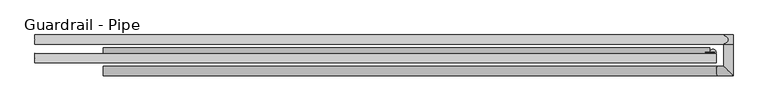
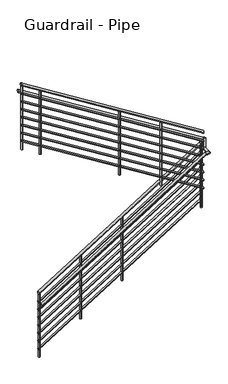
"""IFC4 building model written with IfcOpenShell, lengths in millimetres: railing geometry, Guardrail - Pipe."""

from ifc_helpers import new_model, si_unit, point, frame, frame_2d, origin, place, context, project, spatial, circle_curve, ellipse_curve, trimmed, segment, composite_curve, outline, extrude, faceted_brep, source, transform, mapped, element, save
from ifc_brep_helpers import plane_surface, cylinder_surface, advanced_brep


def guardrail_pipe_dc18c05d(model_context):
    return source(origin(), model_context, "Body", "SolidModel", [
        advanced_brep(
        [(-2631.8939612, 10554.0699505, 9143.3231361), (-2631.8939612, 10515.9699505, 9143.3231361), (-142.6939612, 10554.0699505, 10695.032227), (-142.6939612, 10515.9699505, 10695.032227)],
        [
            (0, 1, ellipse_curve(frame((-2631.8939612, 10535.0199505, 9143.3231361), z_axis=(-1.0, 0.0, 0.0), x_axis=(0.0, 0.0, -1.0)), 22.4482925, 19.05)),
            (1, 0, ellipse_curve(frame((-2631.8939612, 10535.0199505, 9143.3231361), z_axis=(-1.0, 0.0, 0.0), x_axis=(0.0, 0.0, -1.0)), 22.4482925, 19.05)),
            (2, 3, ellipse_curve(frame((-142.6939612, 10535.0199505, 10695.032227), z_axis=(1.0, 0.0, 0.0), x_axis=(0.0, 0.0, -1.0)), 22.4482925, 19.05)),
            (3, 2, ellipse_curve(frame((-142.6939612, 10535.0199505, 10695.032227), z_axis=(1.0, 0.0, 0.0), x_axis=(0.0, 0.0, -1.0)), 22.4482925, 19.05)),
            (0, 2),
            (3, 1),
        ],
        [
            plane_surface(frame((-2631.8939612, 10535.0199505, 9165.7714286), z_axis=(-1.0, 0.0, 0.0), x_axis=(0.0, 1.0, 0.0))),
            plane_surface(frame((-142.6939612, 10535.0199505, 10717.4805195), z_axis=(1.0, 0.0, 0.0), x_axis=(0.0, 1.0, 0.0))),
            cylinder_surface(frame((-2621.8163602, 10535.0199505, 9149.605277), z_axis=(-0.8486168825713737, 0.0, -0.5290079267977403), x_axis=(0.0, -1.0, 0.0)), 19.05),
        ],
        [
            (0, [[1, 2]]),
            (1, [[3, 4]]),
            (2, [[-1, 5, -4, 6]]),
            (2, [[-2, -6, -3, -5]]),
        ],
    ),
        advanced_brep(
        [(-161.7439612, 10535.0199505, 10714.2642857), (-123.6439612, 10535.0199505, 10714.2642857), (-161.7439612, 10536.659643, 10714.2642857), (-123.6439612, 10536.659643, 10714.2642857)],
        [
            (0, 1, circle_curve(frame((-142.6939612, 10535.0199505, 10714.2642857), z_axis=(0.0, -1.0, 0.0), x_axis=(1.0, 0.0, 0.0)), 19.05)),
            (1, 0, circle_curve(frame((-142.6939612, 10535.0199505, 10714.2642857), z_axis=(0.0, -1.0, 0.0), x_axis=(1.0, 0.0, 0.0)), 19.05)),
            (2, 3, circle_curve(frame((-142.6939612, 10536.659643, 10714.2642857), z_axis=(0.0, 1.0, 0.0), x_axis=(1.0, 0.0, 0.0)), 19.05)),
            (3, 2, circle_curve(frame((-142.6939612, 10536.659643, 10714.2642857), z_axis=(0.0, 1.0, 0.0), x_axis=(1.0, 0.0, 0.0)), 19.05)),
            (0, 2),
            (3, 1),
        ],
        [
            plane_surface(frame((-142.6939612, 10535.0199505, 10733.3142857), z_axis=(0.0, -1.0, 0.0), x_axis=(0.0, 0.0, 1.0))),
            plane_surface(frame((-142.6939612, 10536.659643, 10733.3142857), z_axis=(0.0, 1.0, 0.0), x_axis=(0.0, 0.0, 1.0))),
            cylinder_surface(frame((-142.6939612, 10535.0199505, 10714.2642857), z_axis=(0.0, -1.0, 0.0), x_axis=(1.0, 0.0, 0.0)), 19.05),
        ],
        [
            (0, [[1, 2]]),
            (1, [[3, 4]]),
            (2, [[-1, 5, -4, 6]]),
            (2, [[-2, -6, -3, -5]]),
        ],
    ),
        advanced_brep(
        [(-117.2939612, 10492.209643, 10885.0374218), (-117.2939612, 10530.309643, 10885.0374218), (-2911.2939612, 10492.209643, 12626.7517075), (-2911.2939612, 10530.309643, 12626.7517075)],
        [
            (0, 1, ellipse_curve(frame((-117.2939612, 10511.259643, 10885.0374218), z_axis=(1.0, 0.0, 0.0), x_axis=(0.0, 0.0, -1.0)), 22.4482925, 19.05)),
            (1, 0, ellipse_curve(frame((-117.2939612, 10511.259643, 10885.0374218), z_axis=(1.0, 0.0, 0.0), x_axis=(0.0, 0.0, -1.0)), 22.4482925, 19.05)),
            (2, 3, ellipse_curve(frame((-2911.2939612, 10511.259643, 12626.7517075), z_axis=(-1.0, 0.0, 0.0), x_axis=(0.0, 0.0, -1.0)), 22.4482925, 19.05)),
            (3, 2, ellipse_curve(frame((-2911.2939612, 10511.259643, 12626.7517075), z_axis=(-1.0, 0.0, 0.0), x_axis=(0.0, 0.0, -1.0)), 22.4482925, 19.05)),
            (0, 2),
            (3, 1),
        ],
        [
            plane_surface(frame((-117.2939612, 10511.259643, 10907.4857143), z_axis=(1.0, 0.0, 0.0), x_axis=(0.0, -1.0, 0.0))),
            plane_surface(frame((-2911.2939612, 10511.259643, 12649.2), z_axis=(-1.0, 0.0, 0.0), x_axis=(0.0, -1.0, 0.0))),
            cylinder_surface(frame((-127.3715622, 10511.259643, 10891.3195627), z_axis=(0.8486168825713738, 0.0, -0.5290079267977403), x_axis=(0.0, 1.0, 0.0)), 19.05),
        ],
        [
            (0, [[1, 2]]),
            (1, [[3, 4]]),
            (2, [[-1, 5, -4, 6]]),
            (2, [[-2, -6, -3, -5]]),
        ],
    ),
        advanced_brep(
        [(-2631.8939612, 10547.7199505, 8998.4059002), (-2631.8939612, 10522.3199505, 8998.4059002), (-142.6939612, 10547.7199505, 10550.1149911), (-142.6939612, 10522.3199505, 10550.1149911)],
        [
            (0, 1, ellipse_curve(frame((-2631.8939612, 10535.0199505, 8998.4059002), z_axis=(-1.0, 0.0, 0.0), x_axis=(0.0, 0.0, -1.0)), 14.9655283, 12.7)),
            (1, 0, ellipse_curve(frame((-2631.8939612, 10535.0199505, 8998.4059002), z_axis=(-1.0, 0.0, 0.0), x_axis=(0.0, 0.0, -1.0)), 14.9655283, 12.7)),
            (2, 3, ellipse_curve(frame((-142.6939612, 10535.0199505, 10550.1149911), z_axis=(1.0, 0.0, 0.0), x_axis=(0.0, 0.0, -1.0)), 14.9655283, 12.7)),
            (3, 2, ellipse_curve(frame((-142.6939612, 10535.0199505, 10550.1149911), z_axis=(1.0, 0.0, 0.0), x_axis=(0.0, 0.0, -1.0)), 14.9655283, 12.7)),
            (0, 2),
            (3, 1),
        ],
        [
            plane_surface(frame((-2631.8939612, 10535.0199505, 9013.3714286), z_axis=(-1.0, 0.0, 0.0), x_axis=(0.0, 1.0, 0.0))),
            plane_surface(frame((-142.6939612, 10535.0199505, 10565.0805195), z_axis=(1.0, 0.0, 0.0), x_axis=(0.0, 1.0, 0.0))),
            cylinder_surface(frame((-2625.1755605, 10535.0199505, 9002.5939942), z_axis=(-0.8486168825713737, 0.0, -0.5290079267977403), x_axis=(0.0, -1.0, 0.0)), 12.7),
        ],
        [
            (0, [[1, 2]]),
            (1, [[3, 4]]),
            (2, [[-1, 5, -4, 6]]),
            (2, [[-2, -6, -3, -5]]),
        ],
    ),
        advanced_brep(
        [(-155.3939612, 10535.0199505, 10568.2142857), (-129.9939612, 10535.0199505, 10568.2142857), (-155.3939612, 10536.659643, 10568.2142857), (-129.9939612, 10536.659643, 10568.2142857)],
        [
            (0, 1, circle_curve(frame((-142.6939612, 10535.0199505, 10568.2142857), z_axis=(0.0, -1.0, 0.0), x_axis=(1.0, 0.0, 0.0)), 12.7)),
            (1, 0, circle_curve(frame((-142.6939612, 10535.0199505, 10568.2142857), z_axis=(0.0, -1.0, 0.0), x_axis=(1.0, 0.0, 0.0)), 12.7)),
            (2, 3, circle_curve(frame((-142.6939612, 10536.659643, 10568.2142857), z_axis=(0.0, 1.0, 0.0), x_axis=(1.0, 0.0, 0.0)), 12.7)),
            (3, 2, circle_curve(frame((-142.6939612, 10536.659643, 10568.2142857), z_axis=(0.0, 1.0, 0.0), x_axis=(1.0, 0.0, 0.0)), 12.7)),
            (0, 2),
            (3, 1),
        ],
        [
            plane_surface(frame((-142.6939612, 10535.0199505, 10580.9142857), z_axis=(0.0, -1.0, 0.0), x_axis=(0.0, 0.0, 1.0))),
            plane_surface(frame((-142.6939612, 10536.659643, 10580.9142857), z_axis=(0.0, 1.0, 0.0), x_axis=(0.0, 0.0, 1.0))),
            cylinder_surface(frame((-142.6939612, 10535.0199505, 10568.2142857), z_axis=(0.0, -1.0, 0.0), x_axis=(1.0, 0.0, 0.0)), 12.7),
        ],
        [
            (0, [[1, 2]]),
            (1, [[3, 4]]),
            (2, [[-1, 5, -4, 6]]),
            (2, [[-2, -6, -3, -5]]),
        ],
    ),
        advanced_brep(
        [(-117.2939612, 10498.559643, 10740.120186), (-117.2939612, 10523.959643, 10740.120186), (-2911.2939612, 10498.559643, 12481.8344717), (-2911.2939612, 10523.959643, 12481.8344717)],
        [
            (0, 1, ellipse_curve(frame((-117.2939612, 10511.259643, 10740.120186), z_axis=(1.0, 0.0, 0.0), x_axis=(0.0, 0.0, -1.0)), 14.9655283, 12.7)),
            (1, 0, ellipse_curve(frame((-117.2939612, 10511.259643, 10740.120186), z_axis=(1.0, 0.0, 0.0), x_axis=(0.0, 0.0, -1.0)), 14.9655283, 12.7)),
            (2, 3, ellipse_curve(frame((-2911.2939612, 10511.259643, 12481.8344717), z_axis=(-1.0, 0.0, 0.0), x_axis=(0.0, 0.0, -1.0)), 14.9655283, 12.7)),
            (3, 2, ellipse_curve(frame((-2911.2939612, 10511.259643, 12481.8344717), z_axis=(-1.0, 0.0, 0.0), x_axis=(0.0, 0.0, -1.0)), 14.9655283, 12.7)),
            (0, 2),
            (3, 1),
        ],
        [
            plane_surface(frame((-117.2939612, 10511.259643, 10755.0857143), z_axis=(1.0, 0.0, 0.0), x_axis=(0.0, -1.0, 0.0))),
            plane_surface(frame((-2911.2939612, 10511.259643, 12496.8), z_axis=(-1.0, 0.0, 0.0), x_axis=(0.0, -1.0, 0.0))),
            cylinder_surface(frame((-124.0123619, 10511.259643, 10744.3082799), z_axis=(0.8486168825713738, 0.0, -0.5290079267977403), x_axis=(0.0, 1.0, 0.0)), 12.7),
        ],
        [
            (0, [[1, 2]]),
            (1, [[3, 4]]),
            (2, [[-1, 5, -4, 6]]),
            (2, [[-2, -6, -3, -5]]),
        ],
    ),
        advanced_brep(
        [(-2631.8939612, 10477.8699505, 8990.9231361), (-2631.8939612, 10439.7699505, 8990.9231361), (-111.8425336, 10477.8699505, 10561.8642857), (-111.8425336, 10439.7699505, 10561.8642857), (-85.5439612, 10477.8699505, 10561.8642857), (-47.4439612, 10439.7699505, 10561.8642857), (-85.5439612, 10587.459643, 10561.8642857), (-47.4439612, 10587.459643, 10561.8642857)],
        [
            (0, 1, ellipse_curve(frame((-2631.8939612, 10458.8199505, 8990.9231361), z_axis=(-1.0, 0.0, 0.0), x_axis=(0.0, 0.0, -1.0)), 22.4482925, 19.05)),
            (1, 0, ellipse_curve(frame((-2631.8939612, 10458.8199505, 8990.9231361), z_axis=(-1.0, 0.0, 0.0), x_axis=(0.0, 0.0, -1.0)), 22.4482925, 19.05)),
            (0, 2),
            (2, 3, ellipse_curve(frame((-111.8425336, 10458.8199505, 10561.8642857), z_axis=(-0.9614096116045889, 0.0, -0.2751209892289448), x_axis=(0.2751209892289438, 0.0, -0.9614096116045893)), 19.8146552, 19.05)),
            (3, 1),
            (3, 2, ellipse_curve(frame((-111.8425336, 10458.8199505, 10561.8642857), z_axis=(-0.9614096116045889, 0.0, -0.2751209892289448), x_axis=(0.2751209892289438, 0.0, -0.9614096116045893)), 19.8146552, 19.05)),
            (2, 4),
            (4, 5, ellipse_curve(frame((-66.4939612, 10458.8199505, 10561.8642857), z_axis=(-0.7071067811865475, -0.7071067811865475, 0.0), x_axis=(-0.7071067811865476, 0.7071067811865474, 0.0)), 26.9407684, 19.05)),
            (5, 3),
            (5, 4, ellipse_curve(frame((-66.4939612, 10458.8199505, 10561.8642857), z_axis=(-0.7071067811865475, -0.7071067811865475, 0.0), x_axis=(-0.7071067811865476, 0.7071067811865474, 0.0)), 26.9407684, 19.05)),
            (6, 7, circle_curve(frame((-66.4939612, 10587.459643, 10561.8642857), z_axis=(0.0, 1.0, 0.0), x_axis=(1.0, 0.0, 0.0)), 19.05)),
            (7, 6, circle_curve(frame((-66.4939612, 10587.459643, 10561.8642857), z_axis=(0.0, 1.0, 0.0), x_axis=(1.0, 0.0, 0.0)), 19.05)),
            (4, 6),
            (7, 5),
        ],
        [
            plane_surface(frame((-2631.8939612, 10458.8199505, 9013.3714286), z_axis=(-1.0, 0.0, 0.0), x_axis=(0.0, 1.0, 0.0))),
            cylinder_surface(frame((-2621.8163602, 10458.8199505, 8997.205277), z_axis=(-0.8486168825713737, 0.0, -0.5290079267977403), x_axis=(0.0, -1.0, 0.0)), 19.05),
            cylinder_surface(frame((-117.2939612, 10458.8199505, 10561.8642857), z_axis=(-1.0, 0.0, 0.0), x_axis=(0.0, -1.0, 0.0)), 19.05),
            plane_surface(frame((-66.4939612, 10587.459643, 10580.9142857), z_axis=(0.0, 1.0, 0.0), x_axis=(0.0, 0.0, 1.0))),
            cylinder_surface(frame((-66.4939612, 10458.8199505, 10561.8642857), z_axis=(0.0, -1.0, 0.0), x_axis=(1.0, 0.0, 0.0)), 19.05),
        ],
        [
            (0, [[1, 2]]),
            (1, [[-1, 3, 4, 5]]),
            (1, [[-2, -5, 6, -3]]),
            (2, [[-4, 7, 8, 9]]),
            (2, [[-6, -9, 10, -7]]),
            (3, [[11, 12]]),
            (4, [[-8, 13, -12, 14]]),
            (4, [[-10, -14, -11, -13]]),
        ],
    ),
        faceted_brep([(-85.5439612, 10606.509643, 10542.8142857), (-47.4439612, 10606.509643, 10542.8142857), (-47.4439612, 10568.409643, 10542.8142857), (-85.5439612, 10568.409643, 10542.8142857), (-85.5439612, 10606.509643, 10723.4181818), (-85.5439612, 10568.409643, 10723.4181818), (-47.4439612, 10568.409643, 10723.4181818), (-47.4439612, 10606.509643, 10723.4181818)], [[[0, 1, 2, 3]], [[4, 5, 6, 7]], [[1, 0, 4, 7]], [[2, 1, 7, 6]], [[3, 2, 6, 5]], [[0, 3, 5, 4]]]),
        advanced_brep(
        [(-66.4939612, 10568.409643, 10700.9698893), (-66.4939612, 10606.509643, 10700.9698893), (-2911.2939612, 10568.409643, 12474.3517075), (-2911.2939612, 10606.509643, 12474.3517075)],
        [
            (0, 1, ellipse_curve(frame((-66.4939612, 10587.459643, 10700.9698893), z_axis=(1.0, 0.0, 0.0), x_axis=(0.0, 0.0, -1.0)), 22.4482925, 19.05)),
            (1, 0, ellipse_curve(frame((-66.4939612, 10587.459643, 10700.9698893), z_axis=(1.0, 0.0, 0.0), x_axis=(0.0, 0.0, -1.0)), 22.4482925, 19.05)),
            (2, 3, ellipse_curve(frame((-2911.2939612, 10587.459643, 12474.3517075), z_axis=(-1.0, 0.0, 0.0), x_axis=(0.0, 0.0, -1.0)), 22.4482925, 19.05)),
            (3, 2, ellipse_curve(frame((-2911.2939612, 10587.459643, 12474.3517075), z_axis=(-1.0, 0.0, 0.0), x_axis=(0.0, 0.0, -1.0)), 22.4482925, 19.05)),
            (0, 2),
            (3, 1),
        ],
        [
            plane_surface(frame((-66.4939612, 10587.459643, 10723.4181818), z_axis=(1.0, 0.0, 0.0), x_axis=(0.0, -1.0, 0.0))),
            plane_surface(frame((-2911.2939612, 10587.459643, 12496.8), z_axis=(-1.0, 0.0, 0.0), x_axis=(0.0, -1.0, 0.0))),
            cylinder_surface(frame((-76.5715622, 10587.459643, 10707.2520302), z_axis=(0.8486168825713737, 0.0, -0.5290079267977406), x_axis=(0.0, 1.0, 0.0)), 19.05),
        ],
        [
            (0, [[1, 2]]),
            (1, [[3, 4]]),
            (2, [[-1, 5, -4, 6]]),
            (2, [[-2, -6, -3, -5]]),
        ],
    ),
        advanced_brep(
        [(-2631.8939612, 10547.7199505, 8871.4059002), (-2631.8939612, 10522.3199505, 8871.4059002), (-142.6939612, 10547.7199505, 10423.1149911), (-142.6939612, 10522.3199505, 10423.1149911)],
        [
            (0, 1, ellipse_curve(frame((-2631.8939612, 10535.0199505, 8871.4059002), z_axis=(-1.0, 0.0, 0.0), x_axis=(0.0, 0.0, -1.0)), 14.9655283, 12.7)),
            (1, 0, ellipse_curve(frame((-2631.8939612, 10535.0199505, 8871.4059002), z_axis=(-1.0, 0.0, 0.0), x_axis=(0.0, 0.0, -1.0)), 14.9655283, 12.7)),
            (2, 3, ellipse_curve(frame((-142.6939612, 10535.0199505, 10423.1149911), z_axis=(1.0, 0.0, 0.0), x_axis=(0.0, 0.0, -1.0)), 14.9655283, 12.7)),
            (3, 2, ellipse_curve(frame((-142.6939612, 10535.0199505, 10423.1149911), z_axis=(1.0, 0.0, 0.0), x_axis=(0.0, 0.0, -1.0)), 14.9655283, 12.7)),
            (0, 2),
            (3, 1),
        ],
        [
            plane_surface(frame((-2631.8939612, 10535.0199505, 8886.3714286), z_axis=(-1.0, 0.0, 0.0), x_axis=(0.0, 1.0, 0.0))),
            plane_surface(frame((-142.6939612, 10535.0199505, 10438.0805195), z_axis=(1.0, 0.0, 0.0), x_axis=(0.0, 1.0, 0.0))),
            cylinder_surface(frame((-2625.1755605, 10535.0199505, 8875.5939942), z_axis=(-0.8486168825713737, 0.0, -0.5290079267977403), x_axis=(0.0, -1.0, 0.0)), 12.7),
        ],
        [
            (0, [[1, 2]]),
            (1, [[3, 4]]),
            (2, [[-1, 5, -4, 6]]),
            (2, [[-2, -6, -3, -5]]),
        ],
    ),
        advanced_brep(
        [(-155.3939612, 10535.0199505, 10441.2142857), (-129.9939612, 10535.0199505, 10441.2142857), (-155.3939612, 10536.659643, 10441.2142857), (-129.9939612, 10536.659643, 10441.2142857)],
        [
            (0, 1, circle_curve(frame((-142.6939612, 10535.0199505, 10441.2142857), z_axis=(0.0, -1.0, 0.0), x_axis=(1.0, 0.0, 0.0)), 12.7)),
            (1, 0, circle_curve(frame((-142.6939612, 10535.0199505, 10441.2142857), z_axis=(0.0, -1.0, 0.0), x_axis=(1.0, 0.0, 0.0)), 12.7)),
            (2, 3, circle_curve(frame((-142.6939612, 10536.659643, 10441.2142857), z_axis=(0.0, 1.0, 0.0), x_axis=(1.0, 0.0, 0.0)), 12.7)),
            (3, 2, circle_curve(frame((-142.6939612, 10536.659643, 10441.2142857), z_axis=(0.0, 1.0, 0.0), x_axis=(1.0, 0.0, 0.0)), 12.7)),
            (0, 2),
            (3, 1),
        ],
        [
            plane_surface(frame((-142.6939612, 10535.0199505, 10453.9142857), z_axis=(0.0, -1.0, 0.0), x_axis=(0.0, 0.0, 1.0))),
            plane_surface(frame((-142.6939612, 10536.659643, 10453.9142857), z_axis=(0.0, 1.0, 0.0), x_axis=(0.0, 0.0, 1.0))),
            cylinder_surface(frame((-142.6939612, 10535.0199505, 10441.2142857), z_axis=(0.0, -1.0, 0.0), x_axis=(1.0, 0.0, 0.0)), 12.7),
        ],
        [
            (0, [[1, 2]]),
            (1, [[3, 4]]),
            (2, [[-1, 5, -4, 6]]),
            (2, [[-2, -6, -3, -5]]),
        ],
    ),
        advanced_brep(
        [(-117.2939612, 10498.559643, 10613.120186), (-117.2939612, 10523.959643, 10613.120186), (-2911.2939612, 10498.559643, 12354.8344717), (-2911.2939612, 10523.959643, 12354.8344717)],
        [
            (0, 1, ellipse_curve(frame((-117.2939612, 10511.259643, 10613.120186), z_axis=(1.0, 0.0, 0.0), x_axis=(0.0, 0.0, -1.0)), 14.9655283, 12.7)),
            (1, 0, ellipse_curve(frame((-117.2939612, 10511.259643, 10613.120186), z_axis=(1.0, 0.0, 0.0), x_axis=(0.0, 0.0, -1.0)), 14.9655283, 12.7)),
            (2, 3, ellipse_curve(frame((-2911.2939612, 10511.259643, 12354.8344717), z_axis=(-1.0, 0.0, 0.0), x_axis=(0.0, 0.0, -1.0)), 14.9655283, 12.7)),
            (3, 2, ellipse_curve(frame((-2911.2939612, 10511.259643, 12354.8344717), z_axis=(-1.0, 0.0, 0.0), x_axis=(0.0, 0.0, -1.0)), 14.9655283, 12.7)),
            (0, 2),
            (3, 1),
        ],
        [
            plane_surface(frame((-117.2939612, 10511.259643, 10628.0857143), z_axis=(1.0, 0.0, 0.0), x_axis=(0.0, -1.0, 0.0))),
            plane_surface(frame((-2911.2939612, 10511.259643, 12369.8), z_axis=(-1.0, 0.0, 0.0), x_axis=(0.0, -1.0, 0.0))),
            cylinder_surface(frame((-124.0123619, 10511.259643, 10617.3082799), z_axis=(0.8486168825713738, 0.0, -0.5290079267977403), x_axis=(0.0, 1.0, 0.0)), 12.7),
        ],
        [
            (0, [[1, 2]]),
            (1, [[3, 4]]),
            (2, [[-1, 5, -4, 6]]),
            (2, [[-2, -6, -3, -5]]),
        ],
    ),
        advanced_brep(
        [(-2631.8939612, 10547.7199505, 8744.4059002), (-2631.8939612, 10522.3199505, 8744.4059002), (-142.6939612, 10547.7199505, 10296.1149911), (-142.6939612, 10522.3199505, 10296.1149911)],
        [
            (0, 1, ellipse_curve(frame((-2631.8939612, 10535.0199505, 8744.4059002), z_axis=(-1.0, 0.0, 0.0), x_axis=(0.0, 0.0, -1.0)), 14.9655283, 12.7)),
            (1, 0, ellipse_curve(frame((-2631.8939612, 10535.0199505, 8744.4059002), z_axis=(-1.0, 0.0, 0.0), x_axis=(0.0, 0.0, -1.0)), 14.9655283, 12.7)),
            (2, 3, ellipse_curve(frame((-142.6939612, 10535.0199505, 10296.1149911), z_axis=(1.0, 0.0, 0.0), x_axis=(0.0, 0.0, -1.0)), 14.9655283, 12.7)),
            (3, 2, ellipse_curve(frame((-142.6939612, 10535.0199505, 10296.1149911), z_axis=(1.0, 0.0, 0.0), x_axis=(0.0, 0.0, -1.0)), 14.9655283, 12.7)),
            (0, 2),
            (3, 1),
        ],
        [
            plane_surface(frame((-2631.8939612, 10535.0199505, 8759.3714286), z_axis=(-1.0, 0.0, 0.0), x_axis=(0.0, 1.0, 0.0))),
            plane_surface(frame((-142.6939612, 10535.0199505, 10311.0805195), z_axis=(1.0, 0.0, 0.0), x_axis=(0.0, 1.0, 0.0))),
            cylinder_surface(frame((-2625.1755605, 10535.0199505, 8748.5939942), z_axis=(-0.8486168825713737, 0.0, -0.5290079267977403), x_axis=(0.0, -1.0, 0.0)), 12.7),
        ],
        [
            (0, [[1, 2]]),
            (1, [[3, 4]]),
            (2, [[-1, 5, -4, 6]]),
            (2, [[-2, -6, -3, -5]]),
        ],
    ),
        advanced_brep(
        [(-155.3939612, 10535.0199505, 10314.2142857), (-129.9939612, 10535.0199505, 10314.2142857), (-155.3939612, 10536.659643, 10314.2142857), (-129.9939612, 10536.659643, 10314.2142857)],
        [
            (0, 1, circle_curve(frame((-142.6939612, 10535.0199505, 10314.2142857), z_axis=(0.0, -1.0, 0.0), x_axis=(1.0, 0.0, 0.0)), 12.7)),
            (1, 0, circle_curve(frame((-142.6939612, 10535.0199505, 10314.2142857), z_axis=(0.0, -1.0, 0.0), x_axis=(1.0, 0.0, 0.0)), 12.7)),
            (2, 3, circle_curve(frame((-142.6939612, 10536.659643, 10314.2142857), z_axis=(0.0, 1.0, 0.0), x_axis=(1.0, 0.0, 0.0)), 12.7)),
            (3, 2, circle_curve(frame((-142.6939612, 10536.659643, 10314.2142857), z_axis=(0.0, 1.0, 0.0), x_axis=(1.0, 0.0, 0.0)), 12.7)),
            (0, 2),
            (3, 1),
        ],
        [
            plane_surface(frame((-142.6939612, 10535.0199505, 10326.9142857), z_axis=(0.0, -1.0, 0.0), x_axis=(0.0, 0.0, 1.0))),
            plane_surface(frame((-142.6939612, 10536.659643, 10326.9142857), z_axis=(0.0, 1.0, 0.0), x_axis=(0.0, 0.0, 1.0))),
            cylinder_surface(frame((-142.6939612, 10535.0199505, 10314.2142857), z_axis=(0.0, -1.0, 0.0), x_axis=(1.0, 0.0, 0.0)), 12.7),
        ],
        [
            (0, [[1, 2]]),
            (1, [[3, 4]]),
            (2, [[-1, 5, -4, 6]]),
            (2, [[-2, -6, -3, -5]]),
        ],
    ),
        advanced_brep(
        [(-117.2939612, 10498.559643, 10486.120186), (-117.2939612, 10523.959643, 10486.120186), (-2911.2939612, 10498.559643, 12227.8344717), (-2911.2939612, 10523.959643, 12227.8344717)],
        [
            (0, 1, ellipse_curve(frame((-117.2939612, 10511.259643, 10486.120186), z_axis=(1.0, 0.0, 0.0), x_axis=(0.0, 0.0, -1.0)), 14.9655283, 12.7)),
            (1, 0, ellipse_curve(frame((-117.2939612, 10511.259643, 10486.120186), z_axis=(1.0, 0.0, 0.0), x_axis=(0.0, 0.0, -1.0)), 14.9655283, 12.7)),
            (2, 3, ellipse_curve(frame((-2911.2939612, 10511.259643, 12227.8344717), z_axis=(-1.0, 0.0, 0.0), x_axis=(0.0, 0.0, -1.0)), 14.9655283, 12.7)),
            (3, 2, ellipse_curve(frame((-2911.2939612, 10511.259643, 12227.8344717), z_axis=(-1.0, 0.0, 0.0), x_axis=(0.0, 0.0, -1.0)), 14.9655283, 12.7)),
            (0, 2),
            (3, 1),
        ],
        [
            plane_surface(frame((-117.2939612, 10511.259643, 10501.0857143), z_axis=(1.0, 0.0, 0.0), x_axis=(0.0, -1.0, 0.0))),
            plane_surface(frame((-2911.2939612, 10511.259643, 12242.8), z_axis=(-1.0, 0.0, 0.0), x_axis=(0.0, -1.0, 0.0))),
            cylinder_surface(frame((-124.0123619, 10511.259643, 10490.3082799), z_axis=(0.8486168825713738, 0.0, -0.5290079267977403), x_axis=(0.0, 1.0, 0.0)), 12.7),
        ],
        [
            (0, [[1, 2]]),
            (1, [[3, 4]]),
            (2, [[-1, 5, -4, 6]]),
            (2, [[-2, -6, -3, -5]]),
        ],
    ),
        advanced_brep(
        [(-2631.8939612, 10547.7199505, 8617.4059002), (-2631.8939612, 10522.3199505, 8617.4059002), (-142.6939612, 10547.7199505, 10169.1149911), (-142.6939612, 10522.3199505, 10169.1149911)],
        [
            (0, 1, ellipse_curve(frame((-2631.8939612, 10535.0199505, 8617.4059002), z_axis=(-1.0, 0.0, 0.0), x_axis=(0.0, 0.0, -1.0)), 14.9655283, 12.7)),
            (1, 0, ellipse_curve(frame((-2631.8939612, 10535.0199505, 8617.4059002), z_axis=(-1.0, 0.0, 0.0), x_axis=(0.0, 0.0, -1.0)), 14.9655283, 12.7)),
            (2, 3, ellipse_curve(frame((-142.6939612, 10535.0199505, 10169.1149911), z_axis=(1.0, 0.0, 0.0), x_axis=(0.0, 0.0, -1.0)), 14.9655283, 12.7)),
            (3, 2, ellipse_curve(frame((-142.6939612, 10535.0199505, 10169.1149911), z_axis=(1.0, 0.0, 0.0), x_axis=(0.0, 0.0, -1.0)), 14.9655283, 12.7)),
            (0, 2),
            (3, 1),
        ],
        [
            plane_surface(frame((-2631.8939612, 10535.0199505, 8632.3714286), z_axis=(-1.0, 0.0, 0.0), x_axis=(0.0, 1.0, 0.0))),
            plane_surface(frame((-142.6939612, 10535.0199505, 10184.0805195), z_axis=(1.0, 0.0, 0.0), x_axis=(0.0, 1.0, 0.0))),
            cylinder_surface(frame((-2625.1755605, 10535.0199505, 8621.5939942), z_axis=(-0.8486168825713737, 0.0, -0.5290079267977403), x_axis=(0.0, -1.0, 0.0)), 12.7),
        ],
        [
            (0, [[1, 2]]),
            (1, [[3, 4]]),
            (2, [[-1, 5, -4, 6]]),
            (2, [[-2, -6, -3, -5]]),
        ],
    ),
        advanced_brep(
        [(-155.3939612, 10535.0199505, 10187.2142857), (-129.9939612, 10535.0199505, 10187.2142857), (-155.3939612, 10536.659643, 10187.2142857), (-129.9939612, 10536.659643, 10187.2142857)],
        [
            (0, 1, circle_curve(frame((-142.6939612, 10535.0199505, 10187.2142857), z_axis=(0.0, -1.0, 0.0), x_axis=(1.0, 0.0, 0.0)), 12.7)),
            (1, 0, circle_curve(frame((-142.6939612, 10535.0199505, 10187.2142857), z_axis=(0.0, -1.0, 0.0), x_axis=(1.0, 0.0, 0.0)), 12.7)),
            (2, 3, circle_curve(frame((-142.6939612, 10536.659643, 10187.2142857), z_axis=(0.0, 1.0, 0.0), x_axis=(1.0, 0.0, 0.0)), 12.7)),
            (3, 2, circle_curve(frame((-142.6939612, 10536.659643, 10187.2142857), z_axis=(0.0, 1.0, 0.0), x_axis=(1.0, 0.0, 0.0)), 12.7)),
            (0, 2),
            (3, 1),
        ],
        [
            plane_surface(frame((-142.6939612, 10535.0199505, 10199.9142857), z_axis=(0.0, -1.0, 0.0), x_axis=(0.0, 0.0, 1.0))),
            plane_surface(frame((-142.6939612, 10536.659643, 10199.9142857), z_axis=(0.0, 1.0, 0.0), x_axis=(0.0, 0.0, 1.0))),
            cylinder_surface(frame((-142.6939612, 10535.0199505, 10187.2142857), z_axis=(0.0, -1.0, 0.0), x_axis=(1.0, 0.0, 0.0)), 12.7),
        ],
        [
            (0, [[1, 2]]),
            (1, [[3, 4]]),
            (2, [[-1, 5, -4, 6]]),
            (2, [[-2, -6, -3, -5]]),
        ],
    ),
        advanced_brep(
        [(-117.2939612, 10498.559643, 10359.120186), (-117.2939612, 10523.959643, 10359.120186), (-2911.2939612, 10498.559643, 12100.8344717), (-2911.2939612, 10523.959643, 12100.8344717)],
        [
            (0, 1, ellipse_curve(frame((-117.2939612, 10511.259643, 10359.120186), z_axis=(1.0, 0.0, 0.0), x_axis=(0.0, 0.0, -1.0)), 14.9655283, 12.7)),
            (1, 0, ellipse_curve(frame((-117.2939612, 10511.259643, 10359.120186), z_axis=(1.0, 0.0, 0.0), x_axis=(0.0, 0.0, -1.0)), 14.9655283, 12.7)),
            (2, 3, ellipse_curve(frame((-2911.2939612, 10511.259643, 12100.8344717), z_axis=(-1.0, 0.0, 0.0), x_axis=(0.0, 0.0, -1.0)), 14.9655283, 12.7)),
            (3, 2, ellipse_curve(frame((-2911.2939612, 10511.259643, 12100.8344717), z_axis=(-1.0, 0.0, 0.0), x_axis=(0.0, 0.0, -1.0)), 14.9655283, 12.7)),
            (0, 2),
            (3, 1),
        ],
        [
            plane_surface(frame((-117.2939612, 10511.259643, 10374.0857143), z_axis=(1.0, 0.0, 0.0), x_axis=(0.0, -1.0, 0.0))),
            plane_surface(frame((-2911.2939612, 10511.259643, 12115.8), z_axis=(-1.0, 0.0, 0.0), x_axis=(0.0, -1.0, 0.0))),
            cylinder_surface(frame((-124.0123619, 10511.259643, 10363.3082799), z_axis=(0.8486168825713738, 0.0, -0.5290079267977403), x_axis=(0.0, 1.0, 0.0)), 12.7),
        ],
        [
            (0, [[1, 2]]),
            (1, [[3, 4]]),
            (2, [[-1, 5, -4, 6]]),
            (2, [[-2, -6, -3, -5]]),
        ],
    ),
        advanced_brep(
        [(-2631.8939612, 10547.7199505, 8490.4059002), (-2631.8939612, 10522.3199505, 8490.4059002), (-142.6939612, 10547.7199505, 10042.1149911), (-142.6939612, 10522.3199505, 10042.1149911)],
        [
            (0, 1, ellipse_curve(frame((-2631.8939612, 10535.0199505, 8490.4059002), z_axis=(-1.0, 0.0, 0.0), x_axis=(0.0, 0.0, -1.0)), 14.9655283, 12.7)),
            (1, 0, ellipse_curve(frame((-2631.8939612, 10535.0199505, 8490.4059002), z_axis=(-1.0, 0.0, 0.0), x_axis=(0.0, 0.0, -1.0)), 14.9655283, 12.7)),
            (2, 3, ellipse_curve(frame((-142.6939612, 10535.0199505, 10042.1149911), z_axis=(1.0, 0.0, 0.0), x_axis=(0.0, 0.0, -1.0)), 14.9655283, 12.7)),
            (3, 2, ellipse_curve(frame((-142.6939612, 10535.0199505, 10042.1149911), z_axis=(1.0, 0.0, 0.0), x_axis=(0.0, 0.0, -1.0)), 14.9655283, 12.7)),
            (0, 2),
            (3, 1),
        ],
        [
            plane_surface(frame((-2631.8939612, 10535.0199505, 8505.3714286), z_axis=(-1.0, 0.0, 0.0), x_axis=(0.0, 1.0, 0.0))),
            plane_surface(frame((-142.6939612, 10535.0199505, 10057.0805195), z_axis=(1.0, 0.0, 0.0), x_axis=(0.0, 1.0, 0.0))),
            cylinder_surface(frame((-2625.1755605, 10535.0199505, 8494.5939942), z_axis=(-0.8486168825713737, 0.0, -0.5290079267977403), x_axis=(0.0, -1.0, 0.0)), 12.7),
        ],
        [
            (0, [[1, 2]]),
            (1, [[3, 4]]),
            (2, [[-1, 5, -4, 6]]),
            (2, [[-2, -6, -3, -5]]),
        ],
    ),
        advanced_brep(
        [(-155.3939612, 10535.0199505, 10060.2142857), (-129.9939612, 10535.0199505, 10060.2142857), (-155.3939612, 10536.659643, 10060.2142857), (-129.9939612, 10536.659643, 10060.2142857)],
        [
            (0, 1, circle_curve(frame((-142.6939612, 10535.0199505, 10060.2142857), z_axis=(0.0, -1.0, 0.0), x_axis=(1.0, 0.0, 0.0)), 12.7)),
            (1, 0, circle_curve(frame((-142.6939612, 10535.0199505, 10060.2142857), z_axis=(0.0, -1.0, 0.0), x_axis=(1.0, 0.0, 0.0)), 12.7)),
            (2, 3, circle_curve(frame((-142.6939612, 10536.659643, 10060.2142857), z_axis=(0.0, 1.0, 0.0), x_axis=(1.0, 0.0, 0.0)), 12.7)),
            (3, 2, circle_curve(frame((-142.6939612, 10536.659643, 10060.2142857), z_axis=(0.0, 1.0, 0.0), x_axis=(1.0, 0.0, 0.0)), 12.7)),
            (0, 2),
            (3, 1),
        ],
        [
            plane_surface(frame((-142.6939612, 10535.0199505, 10072.9142857), z_axis=(0.0, -1.0, 0.0), x_axis=(0.0, 0.0, 1.0))),
            plane_surface(frame((-142.6939612, 10536.659643, 10072.9142857), z_axis=(0.0, 1.0, 0.0), x_axis=(0.0, 0.0, 1.0))),
            cylinder_surface(frame((-142.6939612, 10535.0199505, 10060.2142857), z_axis=(0.0, -1.0, 0.0), x_axis=(1.0, 0.0, 0.0)), 12.7),
        ],
        [
            (0, [[1, 2]]),
            (1, [[3, 4]]),
            (2, [[-1, 5, -4, 6]]),
            (2, [[-2, -6, -3, -5]]),
        ],
    ),
        advanced_brep(
        [(-117.2939612, 10498.559643, 10232.120186), (-117.2939612, 10523.959643, 10232.120186), (-2911.2939612, 10498.559643, 11973.8344717), (-2911.2939612, 10523.959643, 11973.8344717)],
        [
            (0, 1, ellipse_curve(frame((-117.2939612, 10511.259643, 10232.120186), z_axis=(1.0, 0.0, 0.0), x_axis=(0.0, 0.0, -1.0)), 14.9655283, 12.7)),
            (1, 0, ellipse_curve(frame((-117.2939612, 10511.259643, 10232.120186), z_axis=(1.0, 0.0, 0.0), x_axis=(0.0, 0.0, -1.0)), 14.9655283, 12.7)),
            (2, 3, ellipse_curve(frame((-2911.2939612, 10511.259643, 11973.8344717), z_axis=(-1.0, 0.0, 0.0), x_axis=(0.0, 0.0, -1.0)), 14.9655283, 12.7)),
            (3, 2, ellipse_curve(frame((-2911.2939612, 10511.259643, 11973.8344717), z_axis=(-1.0, 0.0, 0.0), x_axis=(0.0, 0.0, -1.0)), 14.9655283, 12.7)),
            (0, 2),
            (3, 1),
        ],
        [
            plane_surface(frame((-117.2939612, 10511.259643, 10247.0857143), z_axis=(1.0, 0.0, 0.0), x_axis=(0.0, -1.0, 0.0))),
            plane_surface(frame((-2911.2939612, 10511.259643, 11988.8), z_axis=(-1.0, 0.0, 0.0), x_axis=(0.0, -1.0, 0.0))),
            cylinder_surface(frame((-124.0123619, 10511.259643, 10236.3082799), z_axis=(0.8486168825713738, 0.0, -0.5290079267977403), x_axis=(0.0, 1.0, 0.0)), 12.7),
        ],
        [
            (0, [[1, 2]]),
            (1, [[3, 4]]),
            (2, [[-1, 5, -4, 6]]),
            (2, [[-2, -6, -3, -5]]),
        ],
    ),
        advanced_brep(
        [(-2631.8939612, 10547.7199505, 8363.4059002), (-2631.8939612, 10522.3199505, 8363.4059002), (-142.6939612, 10547.7199505, 9915.1149911), (-142.6939612, 10522.3199505, 9915.1149911)],
        [
            (0, 1, ellipse_curve(frame((-2631.8939612, 10535.0199505, 8363.4059002), z_axis=(-1.0, 0.0, 0.0), x_axis=(0.0, 0.0, -1.0)), 14.9655283, 12.7)),
            (1, 0, ellipse_curve(frame((-2631.8939612, 10535.0199505, 8363.4059002), z_axis=(-1.0, 0.0, 0.0), x_axis=(0.0, 0.0, -1.0)), 14.9655283, 12.7)),
            (2, 3, ellipse_curve(frame((-142.6939612, 10535.0199505, 9915.1149911), z_axis=(1.0, 0.0, 0.0), x_axis=(0.0, 0.0, -1.0)), 14.9655283, 12.7)),
            (3, 2, ellipse_curve(frame((-142.6939612, 10535.0199505, 9915.1149911), z_axis=(1.0, 0.0, 0.0), x_axis=(0.0, 0.0, -1.0)), 14.9655283, 12.7)),
            (0, 2),
            (3, 1),
        ],
        [
            plane_surface(frame((-2631.8939612, 10535.0199505, 8378.3714286), z_axis=(-1.0, 0.0, 0.0), x_axis=(0.0, 1.0, 0.0))),
            plane_surface(frame((-142.6939612, 10535.0199505, 9930.0805195), z_axis=(1.0, 0.0, 0.0), x_axis=(0.0, 1.0, 0.0))),
            cylinder_surface(frame((-2625.1755605, 10535.0199505, 8367.5939942), z_axis=(-0.8486168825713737, 0.0, -0.5290079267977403), x_axis=(0.0, -1.0, 0.0)), 12.7),
        ],
        [
            (0, [[1, 2]]),
            (1, [[3, 4]]),
            (2, [[-1, 5, -4, 6]]),
            (2, [[-2, -6, -3, -5]]),
        ],
    ),
        advanced_brep(
        [(-155.3939612, 10535.0199505, 9933.2142857), (-129.9939612, 10535.0199505, 9933.2142857), (-155.3939612, 10536.659643, 9933.2142857), (-129.9939612, 10536.659643, 9933.2142857)],
        [
            (0, 1, circle_curve(frame((-142.6939612, 10535.0199505, 9933.2142857), z_axis=(0.0, -1.0, 0.0), x_axis=(1.0, 0.0, 0.0)), 12.7)),
            (1, 0, circle_curve(frame((-142.6939612, 10535.0199505, 9933.2142857), z_axis=(0.0, -1.0, 0.0), x_axis=(1.0, 0.0, 0.0)), 12.7)),
            (2, 3, circle_curve(frame((-142.6939612, 10536.659643, 9933.2142857), z_axis=(0.0, 1.0, 0.0), x_axis=(1.0, 0.0, 0.0)), 12.7)),
            (3, 2, circle_curve(frame((-142.6939612, 10536.659643, 9933.2142857), z_axis=(0.0, 1.0, 0.0), x_axis=(1.0, 0.0, 0.0)), 12.7)),
            (0, 2),
            (3, 1),
        ],
        [
            plane_surface(frame((-142.6939612, 10535.0199505, 9945.9142857), z_axis=(0.0, -1.0, 0.0), x_axis=(0.0, 0.0, 1.0))),
            plane_surface(frame((-142.6939612, 10536.659643, 9945.9142857), z_axis=(0.0, 1.0, 0.0), x_axis=(0.0, 0.0, 1.0))),
            cylinder_surface(frame((-142.6939612, 10535.0199505, 9933.2142857), z_axis=(0.0, -1.0, 0.0), x_axis=(1.0, 0.0, 0.0)), 12.7),
        ],
        [
            (0, [[1, 2]]),
            (1, [[3, 4]]),
            (2, [[-1, 5, -4, 6]]),
            (2, [[-2, -6, -3, -5]]),
        ],
    ),
        advanced_brep(
        [(-117.2939612, 10498.559643, 10105.120186), (-117.2939612, 10523.959643, 10105.120186), (-2911.2939612, 10498.559643, 11846.8344717), (-2911.2939612, 10523.959643, 11846.8344717)],
        [
            (0, 1, ellipse_curve(frame((-117.2939612, 10511.259643, 10105.120186), z_axis=(1.0, 0.0, 0.0), x_axis=(0.0, 0.0, -1.0)), 14.9655283, 12.7)),
            (1, 0, ellipse_curve(frame((-117.2939612, 10511.259643, 10105.120186), z_axis=(1.0, 0.0, 0.0), x_axis=(0.0, 0.0, -1.0)), 14.9655283, 12.7)),
            (2, 3, ellipse_curve(frame((-2911.2939612, 10511.259643, 11846.8344717), z_axis=(-1.0, 0.0, 0.0), x_axis=(0.0, 0.0, -1.0)), 14.9655283, 12.7)),
            (3, 2, ellipse_curve(frame((-2911.2939612, 10511.259643, 11846.8344717), z_axis=(-1.0, 0.0, 0.0), x_axis=(0.0, 0.0, -1.0)), 14.9655283, 12.7)),
            (0, 2),
            (3, 1),
        ],
        [
            plane_surface(frame((-117.2939612, 10511.259643, 10120.0857143), z_axis=(1.0, 0.0, 0.0), x_axis=(0.0, -1.0, 0.0))),
            plane_surface(frame((-2911.2939612, 10511.259643, 11861.8), z_axis=(-1.0, 0.0, 0.0), x_axis=(0.0, -1.0, 0.0))),
            cylinder_surface(frame((-124.0123619, 10511.259643, 10109.3082799), z_axis=(0.8486168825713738, 0.0, -0.5290079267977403), x_axis=(0.0, 1.0, 0.0)), 12.7),
        ],
        [
            (0, [[1, 2]]),
            (1, [[3, 4]]),
            (2, [[-1, 5, -4, 6]]),
            (2, [[-2, -6, -3, -5]]),
        ],
    ),
        advanced_brep(
        [(-2631.8939612, 10547.7199505, 8236.4059002), (-2631.8939612, 10522.3199505, 8236.4059002), (-142.6939612, 10547.7199505, 9788.1149911), (-142.6939612, 10522.3199505, 9788.1149911)],
        [
            (0, 1, ellipse_curve(frame((-2631.8939612, 10535.0199505, 8236.4059002), z_axis=(-1.0, 0.0, 0.0), x_axis=(0.0, 0.0, -1.0)), 14.9655283, 12.7)),
            (1, 0, ellipse_curve(frame((-2631.8939612, 10535.0199505, 8236.4059002), z_axis=(-1.0, 0.0, 0.0), x_axis=(0.0, 0.0, -1.0)), 14.9655283, 12.7)),
            (2, 3, ellipse_curve(frame((-142.6939612, 10535.0199505, 9788.1149911), z_axis=(1.0, 0.0, 0.0), x_axis=(0.0, 0.0, -1.0)), 14.9655283, 12.7)),
            (3, 2, ellipse_curve(frame((-142.6939612, 10535.0199505, 9788.1149911), z_axis=(1.0, 0.0, 0.0), x_axis=(0.0, 0.0, -1.0)), 14.9655283, 12.7)),
            (0, 2),
            (3, 1),
        ],
        [
            plane_surface(frame((-2631.8939612, 10535.0199505, 8251.3714286), z_axis=(-1.0, 0.0, 0.0), x_axis=(0.0, 1.0, 0.0))),
            plane_surface(frame((-142.6939612, 10535.0199505, 9803.0805195), z_axis=(1.0, 0.0, 0.0), x_axis=(0.0, 1.0, 0.0))),
            cylinder_surface(frame((-2625.1755605, 10535.0199505, 8240.5939942), z_axis=(-0.8486168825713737, 0.0, -0.5290079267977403), x_axis=(0.0, -1.0, 0.0)), 12.7),
        ],
        [
            (0, [[1, 2]]),
            (1, [[3, 4]]),
            (2, [[-1, 5, -4, 6]]),
            (2, [[-2, -6, -3, -5]]),
        ],
    ),
        advanced_brep(
        [(-155.3939612, 10535.0199505, 9806.2142857), (-129.9939612, 10535.0199505, 9806.2142857), (-155.3939612, 10536.659643, 9806.2142857), (-129.9939612, 10536.659643, 9806.2142857)],
        [
            (0, 1, circle_curve(frame((-142.6939612, 10535.0199505, 9806.2142857), z_axis=(0.0, -1.0, 0.0), x_axis=(1.0, 0.0, 0.0)), 12.7)),
            (1, 0, circle_curve(frame((-142.6939612, 10535.0199505, 9806.2142857), z_axis=(0.0, -1.0, 0.0), x_axis=(1.0, 0.0, 0.0)), 12.7)),
            (2, 3, circle_curve(frame((-142.6939612, 10536.659643, 9806.2142857), z_axis=(0.0, 1.0, 0.0), x_axis=(1.0, 0.0, 0.0)), 12.7)),
            (3, 2, circle_curve(frame((-142.6939612, 10536.659643, 9806.2142857), z_axis=(0.0, 1.0, 0.0), x_axis=(1.0, 0.0, 0.0)), 12.7)),
            (0, 2),
            (3, 1),
        ],
        [
            plane_surface(frame((-142.6939612, 10535.0199505, 9818.9142857), z_axis=(0.0, -1.0, 0.0), x_axis=(0.0, 0.0, 1.0))),
            plane_surface(frame((-142.6939612, 10536.659643, 9818.9142857), z_axis=(0.0, 1.0, 0.0), x_axis=(0.0, 0.0, 1.0))),
            cylinder_surface(frame((-142.6939612, 10535.0199505, 9806.2142857), z_axis=(0.0, -1.0, 0.0), x_axis=(1.0, 0.0, 0.0)), 12.7),
        ],
        [
            (0, [[1, 2]]),
            (1, [[3, 4]]),
            (2, [[-1, 5, -4, 6]]),
            (2, [[-2, -6, -3, -5]]),
        ],
    ),
        advanced_brep(
        [(-117.2939612, 10498.559643, 9978.120186), (-117.2939612, 10523.959643, 9978.120186), (-2911.2939612, 10498.559643, 11719.8344717), (-2911.2939612, 10523.959643, 11719.8344717)],
        [
            (0, 1, ellipse_curve(frame((-117.2939612, 10511.259643, 9978.120186), z_axis=(1.0, 0.0, 0.0), x_axis=(0.0, 0.0, -1.0)), 14.9655283, 12.7)),
            (1, 0, ellipse_curve(frame((-117.2939612, 10511.259643, 9978.120186), z_axis=(1.0, 0.0, 0.0), x_axis=(0.0, 0.0, -1.0)), 14.9655283, 12.7)),
            (2, 3, ellipse_curve(frame((-2911.2939612, 10511.259643, 11719.8344717), z_axis=(-1.0, 0.0, 0.0), x_axis=(0.0, 0.0, -1.0)), 14.9655283, 12.7)),
            (3, 2, ellipse_curve(frame((-2911.2939612, 10511.259643, 11719.8344717), z_axis=(-1.0, 0.0, 0.0), x_axis=(0.0, 0.0, -1.0)), 14.9655283, 12.7)),
            (0, 2),
            (3, 1),
        ],
        [
            plane_surface(frame((-117.2939612, 10511.259643, 9993.0857143), z_axis=(1.0, 0.0, 0.0), x_axis=(0.0, -1.0, 0.0))),
            plane_surface(frame((-2911.2939612, 10511.259643, 11734.8), z_axis=(-1.0, 0.0, 0.0), x_axis=(0.0, -1.0, 0.0))),
            cylinder_surface(frame((-124.0123619, 10511.259643, 9982.3082799), z_axis=(0.8486168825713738, 0.0, -0.5290079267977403), x_axis=(0.0, 1.0, 0.0)), 12.7),
        ],
        [
            (0, [[1, 2]]),
            (1, [[3, 4]]),
            (2, [[-1, 5, -4, 6]]),
            (2, [[-2, -6, -3, -5]]),
        ],
    ),
        advanced_brep(
        [(-2898.9123767, 10523.959643, 11574.6816097), (-2898.9123767, 10498.559643, 11574.6816097), (-2898.9123767, 10498.559643, 12596.5850247), (-2898.9123767, 10523.959643, 12596.5850247)],
        [
            (0, 1, circle_curve(frame((-2898.9123767, 10511.259643, 11574.6816097), z_axis=(0.0, 0.0, -1.0), x_axis=(0.0, -1.0, 0.0)), 12.7)),
            (1, 0, circle_curve(frame((-2898.9123767, 10511.259643, 11574.6816097), z_axis=(0.0, 0.0, -1.0), x_axis=(0.0, -1.0, 0.0)), 12.7)),
            (1, 2),
            (2, 3, ellipse_curve(frame((-2898.9123767, 10511.259643, 12596.5850247), z_axis=(-0.5290079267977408, 0.0, -0.8486168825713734), x_axis=(-0.8486168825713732, 0.0, 0.5290079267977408)), 14.9655283, 12.7)),
            (3, 0),
            (3, 2, ellipse_curve(frame((-2898.9123767, 10511.259643, 12596.5850247), z_axis=(-0.5290079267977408, 0.0, -0.8486168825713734), x_axis=(-0.8486168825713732, 0.0, 0.5290079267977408)), 14.9655283, 12.7)),
        ],
        [
            plane_surface(frame((-2898.9123767, 10498.559643, 11574.6816097), z_axis=(0.0, 0.0, -1.0), x_axis=(-1.0, 0.0, 0.0))),
            cylinder_surface(frame((-2898.9123767, 10511.259643, 11574.6816097), z_axis=(0.0, 0.0, 1.0), x_axis=(0.0, -1.0, 0.0)), 12.7),
            plane_surface(frame((-2933.8373767, 10464.0338131, 12618.3564532), z_axis=(0.5290079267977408, 0.0, 0.8486168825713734), x_axis=(0.0, 1.0, 0.0))),
        ],
        [
            (0, [[1, 2]]),
            (1, [[-2, 3, 4, 5]]),
            (1, [[-1, -5, 6, -3]]),
            (2, [[-4, -6]]),
        ],
    ),
        advanced_brep(
        [(-2619.5123767, 10523.959643, 11400.5101811), (-2619.5123767, 10498.559643, 11400.5101811), (-2619.5123767, 10498.559643, 12422.4135961), (-2619.5123767, 10523.959643, 12422.4135961)],
        [
            (0, 1, circle_curve(frame((-2619.5123767, 10511.259643, 11400.5101811), z_axis=(0.0, 0.0, -1.0), x_axis=(0.0, -1.0, 0.0)), 12.7)),
            (1, 0, circle_curve(frame((-2619.5123767, 10511.259643, 11400.5101811), z_axis=(0.0, 0.0, -1.0), x_axis=(0.0, -1.0, 0.0)), 12.7)),
            (1, 2),
            (2, 3, ellipse_curve(frame((-2619.5123767, 10511.259643, 12422.4135961), z_axis=(-0.5290079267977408, 0.0, -0.8486168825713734), x_axis=(-0.8486168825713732, 0.0, 0.5290079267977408)), 14.9655283, 12.7)),
            (3, 0),
            (3, 2, ellipse_curve(frame((-2619.5123767, 10511.259643, 12422.4135961), z_axis=(-0.5290079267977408, 0.0, -0.8486168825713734), x_axis=(-0.8486168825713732, 0.0, 0.5290079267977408)), 14.9655283, 12.7)),
        ],
        [
            plane_surface(frame((-2619.5123767, 10498.559643, 11400.5101811), z_axis=(0.0, 0.0, -1.0), x_axis=(-1.0, 0.0, 0.0))),
            cylinder_surface(frame((-2619.5123767, 10511.259643, 11400.5101811), z_axis=(0.0, 0.0, 1.0), x_axis=(0.0, -1.0, 0.0)), 12.7),
            plane_surface(frame((-2654.4373767, 10464.0338131, 12444.1850247), z_axis=(0.5290079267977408, 0.0, 0.8486168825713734), x_axis=(0.0, 1.0, 0.0))),
        ],
        [
            (0, [[1, 2]]),
            (1, [[-2, 3, 4, 5]]),
            (1, [[-1, -5, 6, -3]]),
            (2, [[-4, -6]]),
        ],
    ),
        advanced_brep(
        [(-1400.3123767, 10523.959643, 10640.4894019), (-1400.3123767, 10498.559643, 10640.4894019), (-1400.3123767, 10498.559643, 11662.3928169), (-1400.3123767, 10523.959643, 11662.3928169)],
        [
            (0, 1, circle_curve(frame((-1400.3123767, 10511.259643, 10640.4894019), z_axis=(0.0, 0.0, -1.0), x_axis=(0.0, -1.0, 0.0)), 12.7)),
            (1, 0, circle_curve(frame((-1400.3123767, 10511.259643, 10640.4894019), z_axis=(0.0, 0.0, -1.0), x_axis=(0.0, -1.0, 0.0)), 12.7)),
            (1, 2),
            (2, 3, ellipse_curve(frame((-1400.3123767, 10511.259643, 11662.3928169), z_axis=(-0.5290079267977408, 0.0, -0.8486168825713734), x_axis=(-0.8486168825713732, 0.0, 0.5290079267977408)), 14.9655283, 12.7)),
            (3, 0),
            (3, 2, ellipse_curve(frame((-1400.3123767, 10511.259643, 11662.3928169), z_axis=(-0.5290079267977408, 0.0, -0.8486168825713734), x_axis=(-0.8486168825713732, 0.0, 0.5290079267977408)), 14.9655283, 12.7)),
        ],
        [
            plane_surface(frame((-1400.3123767, 10498.559643, 10640.4894019), z_axis=(0.0, 0.0, -1.0), x_axis=(-1.0, 0.0, 0.0))),
            cylinder_surface(frame((-1400.3123767, 10511.259643, 10640.4894019), z_axis=(0.0, 0.0, 1.0), x_axis=(0.0, -1.0, 0.0)), 12.7),
            plane_surface(frame((-1435.2373767, 10464.0338131, 11684.1642455), z_axis=(0.5290079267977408, 0.0, 0.8486168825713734), x_axis=(0.0, 1.0, 0.0))),
        ],
        [
            (0, [[1, 2]]),
            (1, [[-2, 3, 4, 5]]),
            (1, [[-1, -5, 6, -3]]),
            (2, [[-4, -6]]),
        ],
    ),
        advanced_brep(
        [(-764.9939612, 10523.959643, 10244.4467532), (-764.9939612, 10498.559643, 10244.4467532), (-764.9939612, 10498.559643, 11266.3501682), (-764.9939612, 10523.959643, 11266.3501682)],
        [
            (0, 1, circle_curve(frame((-764.9939612, 10511.259643, 10244.4467532), z_axis=(0.0, 0.0, -1.0), x_axis=(0.0, -1.0, 0.0)), 12.7)),
            (1, 0, circle_curve(frame((-764.9939612, 10511.259643, 10244.4467532), z_axis=(0.0, 0.0, -1.0), x_axis=(0.0, -1.0, 0.0)), 12.7)),
            (1, 2),
            (2, 3, ellipse_curve(frame((-764.9939612, 10511.259643, 11266.3501682), z_axis=(-0.5290079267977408, 0.0, -0.8486168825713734), x_axis=(-0.8486168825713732, 0.0, 0.5290079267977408)), 14.9655283, 12.7)),
            (3, 0),
            (3, 2, ellipse_curve(frame((-764.9939612, 10511.259643, 11266.3501682), z_axis=(-0.5290079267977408, 0.0, -0.8486168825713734), x_axis=(-0.8486168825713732, 0.0, 0.5290079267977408)), 14.9655283, 12.7)),
        ],
        [
            plane_surface(frame((-764.9939612, 10498.559643, 10244.4467532), z_axis=(0.0, 0.0, -1.0), x_axis=(-1.0, 0.0, 0.0))),
            cylinder_surface(frame((-764.9939612, 10511.259643, 10244.4467532), z_axis=(0.0, 0.0, 1.0), x_axis=(0.0, -1.0, 0.0)), 12.7),
            plane_surface(frame((-799.9189612, 10464.0338131, 11288.1215968), z_axis=(0.5290079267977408, 0.0, 0.8486168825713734), x_axis=(0.0, 1.0, 0.0))),
        ],
        [
            (0, [[1, 2]]),
            (1, [[-2, 3, 4, 5]]),
            (1, [[-1, -5, 6, -3]]),
            (2, [[-4, -6]]),
        ],
    ),
        extrude(outline(composite_curve([segment(trimmed(circle_curve(frame_2d((-142.6939612, 10524.2780585)), 12.7), [point((-129.9939612, 10524.2780585))], [point((-155.3939612, 10524.2780585))], False, "CARTESIAN"), True, "CONTINUOUS"), segment(trimmed(circle_curve(frame_2d((-142.6939612, 10524.2780585)), 12.7), [point((-155.3939612, 10524.2780585))], [point((-129.9939612, 10524.2780585))], False, "CARTESIAN"), True, "CONTINUOUS")], self_intersect=False)), frame((0.0, 0.0, 9666.5142857), z_axis=(0.0, 0.0, 1.0), x_axis=(1.0, 0.0, 0.0)), (0.0, 0.0, 1.0), 1028.7),
        advanced_brep(
        [(-129.6755457, 10522.3199505, 9658.7958954), (-129.6755457, 10547.7199505, 9658.7958954), (-129.6755457, 10547.7199505, 10680.6993104), (-129.6755457, 10522.3199505, 10680.6993104)],
        [
            (0, 1, circle_curve(frame((-129.6755457, 10535.0199505, 9658.7958954), z_axis=(0.0, 0.0, -1.0), x_axis=(0.0, 1.0, 0.0)), 12.7)),
            (1, 0, circle_curve(frame((-129.6755457, 10535.0199505, 9658.7958954), z_axis=(0.0, 0.0, -1.0), x_axis=(0.0, 1.0, 0.0)), 12.7)),
            (1, 2),
            (2, 3, ellipse_curve(frame((-129.6755457, 10535.0199505, 10680.6993104), z_axis=(0.5290079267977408, 0.0, -0.8486168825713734), x_axis=(0.8486168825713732, 0.0, 0.5290079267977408)), 14.9655283, 12.7)),
            (3, 0),
            (3, 2, ellipse_curve(frame((-129.6755457, 10535.0199505, 10680.6993104), z_axis=(0.5290079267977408, 0.0, -0.8486168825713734), x_axis=(0.8486168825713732, 0.0, 0.5290079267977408)), 14.9655283, 12.7)),
        ],
        [
            plane_surface(frame((-129.6755457, 10547.7199505, 9658.7958954), z_axis=(0.0, 0.0, -1.0), x_axis=(1.0, 0.0, 0.0))),
            cylinder_surface(frame((-129.6755457, 10535.0199505, 9658.7958954), z_axis=(0.0, 0.0, 1.0), x_axis=(0.0, 1.0, 0.0)), 12.7),
            plane_surface(frame((-94.7505457, 10582.2457804, 10702.470739), z_axis=(-0.5290079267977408, 0.0, 0.8486168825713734), x_axis=(0.0, -1.0, 0.0))),
        ],
        [
            (0, [[1, 2]]),
            (1, [[-2, 3, 4, 5]]),
            (1, [[-1, -5, 6, -3]]),
            (2, [[-4, -6]]),
        ],
    ),
        advanced_brep(
        [(-1348.8755457, 10522.3199505, 8898.7751162), (-1348.8755457, 10547.7199505, 8898.7751162), (-1348.8755457, 10547.7199505, 9920.6785312), (-1348.8755457, 10522.3199505, 9920.6785312)],
        [
            (0, 1, circle_curve(frame((-1348.8755457, 10535.0199505, 8898.7751162), z_axis=(0.0, 0.0, -1.0), x_axis=(0.0, 1.0, 0.0)), 12.7)),
            (1, 0, circle_curve(frame((-1348.8755457, 10535.0199505, 8898.7751162), z_axis=(0.0, 0.0, -1.0), x_axis=(0.0, 1.0, 0.0)), 12.7)),
            (1, 2),
            (2, 3, ellipse_curve(frame((-1348.8755457, 10535.0199505, 9920.6785312), z_axis=(0.5290079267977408, 0.0, -0.8486168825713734), x_axis=(0.8486168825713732, 0.0, 0.5290079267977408)), 14.9655283, 12.7)),
            (3, 0),
            (3, 2, ellipse_curve(frame((-1348.8755457, 10535.0199505, 9920.6785312), z_axis=(0.5290079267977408, 0.0, -0.8486168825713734), x_axis=(0.8486168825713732, 0.0, 0.5290079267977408)), 14.9655283, 12.7)),
        ],
        [
            plane_surface(frame((-1348.8755457, 10547.7199505, 8898.7751162), z_axis=(0.0, 0.0, -1.0), x_axis=(1.0, 0.0, 0.0))),
            cylinder_surface(frame((-1348.8755457, 10535.0199505, 8898.7751162), z_axis=(0.0, 0.0, 1.0), x_axis=(0.0, 1.0, 0.0)), 12.7),
            plane_surface(frame((-1313.9505457, 10582.2457804, 9942.4499597), z_axis=(-0.5290079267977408, 0.0, 0.8486168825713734), x_axis=(0.0, -1.0, 0.0))),
        ],
        [
            (0, [[1, 2]]),
            (1, [[-2, 3, 4, 5]]),
            (1, [[-1, -5, 6, -3]]),
            (2, [[-4, -6]]),
        ],
    ),
        advanced_brep(
        [(-1984.1939612, 10522.3199505, 8502.7324675), (-1984.1939612, 10547.7199505, 8502.7324675), (-1984.1939612, 10547.7199505, 9524.6358825), (-1984.1939612, 10522.3199505, 9524.6358825)],
        [
            (0, 1, circle_curve(frame((-1984.1939612, 10535.0199505, 8502.7324675), z_axis=(0.0, 0.0, -1.0), x_axis=(0.0, 1.0, 0.0)), 12.7)),
            (1, 0, circle_curve(frame((-1984.1939612, 10535.0199505, 8502.7324675), z_axis=(0.0, 0.0, -1.0), x_axis=(0.0, 1.0, 0.0)), 12.7)),
            (1, 2),
            (2, 3, ellipse_curve(frame((-1984.1939612, 10535.0199505, 9524.6358825), z_axis=(0.5290079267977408, 0.0, -0.8486168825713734), x_axis=(0.8486168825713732, 0.0, 0.5290079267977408)), 14.9655283, 12.7)),
            (3, 0),
            (3, 2, ellipse_curve(frame((-1984.1939612, 10535.0199505, 9524.6358825), z_axis=(0.5290079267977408, 0.0, -0.8486168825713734), x_axis=(0.8486168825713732, 0.0, 0.5290079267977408)), 14.9655283, 12.7)),
        ],
        [
            plane_surface(frame((-1984.1939612, 10547.7199505, 8502.7324675), z_axis=(0.0, 0.0, -1.0), x_axis=(1.0, 0.0, 0.0))),
            cylinder_surface(frame((-1984.1939612, 10535.0199505, 8502.7324675), z_axis=(0.0, 0.0, 1.0), x_axis=(0.0, 1.0, 0.0)), 12.7),
            plane_surface(frame((-1949.2689612, 10582.2457804, 9546.4073111), z_axis=(-0.5290079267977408, 0.0, 0.8486168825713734), x_axis=(0.0, -1.0, 0.0))),
        ],
        [
            (0, [[1, 2]]),
            (1, [[-2, 3, 4, 5]]),
            (1, [[-1, -5, 6, -3]]),
            (2, [[-4, -6]]),
        ],
    ),
        advanced_brep(
        [(-2619.5123767, 10522.3199505, 8106.6898189), (-2619.5123767, 10547.7199505, 8106.6898189), (-2619.5123767, 10547.7199505, 9128.5932339), (-2619.5123767, 10522.3199505, 9128.5932339)],
        [
            (0, 1, circle_curve(frame((-2619.5123767, 10535.0199505, 8106.6898189), z_axis=(0.0, 0.0, -1.0), x_axis=(0.0, 1.0, 0.0)), 12.7)),
            (1, 0, circle_curve(frame((-2619.5123767, 10535.0199505, 8106.6898189), z_axis=(0.0, 0.0, -1.0), x_axis=(0.0, 1.0, 0.0)), 12.7)),
            (1, 2),
            (2, 3, ellipse_curve(frame((-2619.5123767, 10535.0199505, 9128.5932339), z_axis=(0.5290079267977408, 0.0, -0.8486168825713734), x_axis=(0.8486168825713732, 0.0, 0.5290079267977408)), 14.9655283, 12.7)),
            (3, 0),
            (3, 2, ellipse_curve(frame((-2619.5123767, 10535.0199505, 9128.5932339), z_axis=(0.5290079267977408, 0.0, -0.8486168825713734), x_axis=(0.8486168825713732, 0.0, 0.5290079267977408)), 14.9655283, 12.7)),
        ],
        [
            plane_surface(frame((-2619.5123767, 10547.7199505, 8106.6898189), z_axis=(0.0, 0.0, -1.0), x_axis=(1.0, 0.0, 0.0))),
            cylinder_surface(frame((-2619.5123767, 10535.0199505, 8106.6898189), z_axis=(0.0, 0.0, 1.0), x_axis=(0.0, 1.0, 0.0)), 12.7),
            plane_surface(frame((-2584.5873767, 10582.2457804, 9150.3646625), z_axis=(-0.5290079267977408, 0.0, 0.8486168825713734), x_axis=(0.0, -1.0, 0.0))),
        ],
        [
            (0, [[1, 2]]),
            (1, [[-2, 3, 4, 5]]),
            (1, [[-1, -5, 6, -3]]),
            (2, [[-4, -6]]),
        ],
    ),
    ])


if __name__ == "__main__":
    model = new_model("IFC4")
    model_context = context("Model", 3, world=origin())
    ifc_project = project(units=[si_unit("LENGTHUNIT", "METRE", prefix="MILLI")], contexts=[model_context])
    site = spatial("IfcSite", under=ifc_project)
    building = spatial("IfcBuilding", under=site)
    placement = place(None, origin())
    guardrail_pipe_shape = guardrail_pipe_dc18c05d(model_context)
    element("IfcRailing", 1, ObjectType="Guardrail - Pipe", at=placement, inside=building, context=model_context, shape_type="MappedRepresentation", body=[
        mapped(guardrail_pipe_shape, transform((0.0, 0.0, 0.0), x_axis=(1.0, 0.0, 0.0), y_axis=(0.0, 1.0, 0.0), z_axis=(0.0, 0.0, 1.0))),
    ])
    save(model, "model.ifc")
